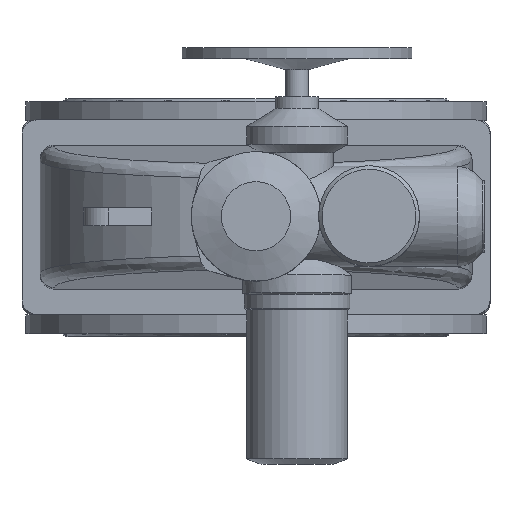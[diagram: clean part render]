
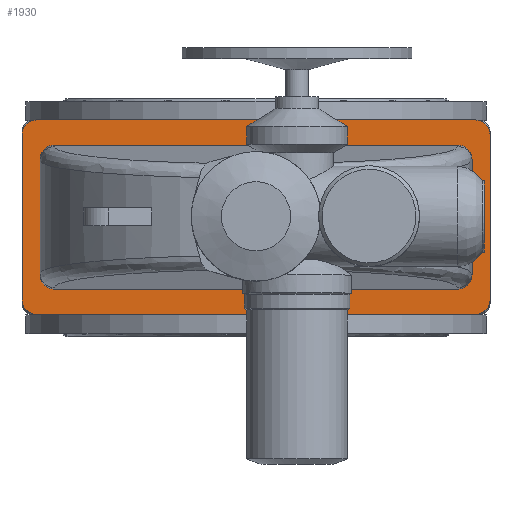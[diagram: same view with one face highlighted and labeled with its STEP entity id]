
A CAD part, top view. The second image highlights one B-rep face of the part: STEP entity #1930.
In plain terms, the highlighted planar face has unit normal (0, 0, 1).
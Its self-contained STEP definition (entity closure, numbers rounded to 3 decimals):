
#1930=ADVANCED_FACE('',(#6315,#6317),#6319,.T.);
#6315=FACE_BOUND('',#6316,.T.);
#6316=EDGE_LOOP('',(#9156,#9157,#9158,#9159,#9160,#9161,#9162,#9163));
#6317=FACE_BOUND('',#6318,.T.);
#6318=EDGE_LOOP('',(#9164,#9165,#9166,#9167,#9168,#9169,#9170,#9171));
#6319=PLANE('',#6320);
#6320=AXIS2_PLACEMENT_3D('',#6321,#6322,#6323);
#6321=CARTESIAN_POINT('',(0.,0.,516.));
#6322=DIRECTION('',(0.,-0.,1.));
#6323=DIRECTION('',(0.,1.,0.));
#9156=ORIENTED_EDGE('',*,*,#10294,.F.);
#9157=ORIENTED_EDGE('',*,*,#10307,.T.);
#9158=ORIENTED_EDGE('',*,*,#10306,.F.);
#9159=ORIENTED_EDGE('',*,*,#10304,.T.);
#9160=ORIENTED_EDGE('',*,*,#10302,.F.);
#9161=ORIENTED_EDGE('',*,*,#10300,.T.);
#9162=ORIENTED_EDGE('',*,*,#10298,.F.);
#9163=ORIENTED_EDGE('',*,*,#10295,.T.);
#9164=ORIENTED_EDGE('',*,*,#10308,.F.);
#9165=ORIENTED_EDGE('',*,*,#10309,.F.);
#9166=ORIENTED_EDGE('',*,*,#10310,.F.);
#9167=ORIENTED_EDGE('',*,*,#10311,.F.);
#9168=ORIENTED_EDGE('',*,*,#10312,.F.);
#9169=ORIENTED_EDGE('',*,*,#10313,.F.);
#9170=ORIENTED_EDGE('',*,*,#10314,.F.);
#9171=ORIENTED_EDGE('',*,*,#10315,.F.);
#10294=EDGE_CURVE('',#11591,#11589,#11593,.F.);
#10295=EDGE_CURVE('',#11594,#11589,#11595,.T.);
#10298=EDGE_CURVE('',#11594,#11597,#11599,.F.);
#10300=EDGE_CURVE('',#11600,#11597,#11602,.T.);
#10302=EDGE_CURVE('',#11600,#11603,#11605,.F.);
#10304=EDGE_CURVE('',#11606,#11603,#11608,.T.);
#10306=EDGE_CURVE('',#11606,#11609,#11611,.F.);
#10307=EDGE_CURVE('',#11591,#11609,#11612,.T.);
#10308=EDGE_CURVE('',#11613,#11614,#11615,.F.);
#10309=EDGE_CURVE('',#11616,#11613,#11617,.T.);
#10310=EDGE_CURVE('',#11618,#11616,#11619,.T.);
#10311=EDGE_CURVE('',#11620,#11618,#11621,.T.);
#10312=EDGE_CURVE('',#11622,#11620,#11623,.F.);
#10313=EDGE_CURVE('',#11624,#11622,#11625,.T.);
#10314=EDGE_CURVE('',#11626,#11624,#11627,.T.);
#10315=EDGE_CURVE('',#11614,#11626,#11628,.T.);
#11589=VERTEX_POINT('',#18125);
#11591=VERTEX_POINT('',#18129);
#11593=CIRCLE('',#18133,20.);
#11594=VERTEX_POINT('',#18137);
#11595=LINE('',#18138,#18139);
#11597=VERTEX_POINT('',#18144);
#11599=CIRCLE('',#18148,20.);
#11600=VERTEX_POINT('',#18152);
#11602=LINE('',#18156,#18157);
#11603=VERTEX_POINT('',#18159);
#11605=CIRCLE('',#18163,20.);
#11606=VERTEX_POINT('',#18167);
#11608=LINE('',#18171,#18172);
#11609=VERTEX_POINT('',#18174);
#11611=CIRCLE('',#18178,20.);
#11612=LINE('',#18182,#18183);
#11613=VERTEX_POINT('',#18185);
#11614=VERTEX_POINT('',#18186);
#11615=(BOUNDED_CURVE()B_SPLINE_CURVE(3,
(#18187,#18188,#18189,#18190),
.UNSPECIFIED.,.F.,.F.)B_SPLINE_CURVE_WITH_KNOTS((4,4),
(0.,1.),
.UNSPECIFIED.)CURVE()GEOMETRIC_REPRESENTATION_ITEM()RATIONAL_B_SPLINE_CURVE((1.,
0.805,0.805,1.))REPRESENTATION_ITEM(''));
#11616=VERTEX_POINT('',#18191);
#11617=LINE('',#18192,#18193);
#11618=VERTEX_POINT('',#18195);
#11619=(BOUNDED_CURVE()B_SPLINE_CURVE(3,
(#18196,#18197,#18198,#18199),
.UNSPECIFIED.,.F.,.F.)B_SPLINE_CURVE_WITH_KNOTS((4,4),
(0.,1.),
.UNSPECIFIED.)CURVE()GEOMETRIC_REPRESENTATION_ITEM()RATIONAL_B_SPLINE_CURVE((1.,
0.805,0.805,1.))REPRESENTATION_ITEM(''));
#11620=VERTEX_POINT('',#18200);
#11621=LINE('',#18201,#18202);
#11622=VERTEX_POINT('',#18204);
#11623=(BOUNDED_CURVE()B_SPLINE_CURVE(3,
(#18205,#18206,#18207,#18208),
.UNSPECIFIED.,.F.,.F.)B_SPLINE_CURVE_WITH_KNOTS((4,4),
(0.,1.),
.UNSPECIFIED.)CURVE()GEOMETRIC_REPRESENTATION_ITEM()RATIONAL_B_SPLINE_CURVE((1.,
0.805,0.805,1.))REPRESENTATION_ITEM(''));
#11624=VERTEX_POINT('',#18209);
#11625=LINE('',#18210,#18211);
#11626=VERTEX_POINT('',#18213);
#11627=(BOUNDED_CURVE()B_SPLINE_CURVE(3,
(#18214,#18215,#18216,#18217),
.UNSPECIFIED.,.F.,.F.)B_SPLINE_CURVE_WITH_KNOTS((4,4),
(0.,1.),
.UNSPECIFIED.)CURVE()GEOMETRIC_REPRESENTATION_ITEM()RATIONAL_B_SPLINE_CURVE((1.,
0.805,0.805,1.))REPRESENTATION_ITEM(''));
#11628=LINE('',#18218,#18219);
#18125=CARTESIAN_POINT('',(-325.,-115.,516.));
#18129=CARTESIAN_POINT('',(-305.,-135.,516.));
#18133=AXIS2_PLACEMENT_3D('',#18134,#18135,#18136);
#18134=CARTESIAN_POINT('',(-305.,-115.,516.));
#18135=DIRECTION('',(0.,-0.,1.));
#18136=DIRECTION('',(-1.,0.,0.));
#18137=CARTESIAN_POINT('',(-325.,115.,516.));
#18138=CARTESIAN_POINT('',(-325.,115.,516.));
#18139=VECTOR('',#18140,1.);
#18140=DIRECTION('',(0.,-1.,0.));
#18144=CARTESIAN_POINT('',(-305.,135.,516.));
#18148=AXIS2_PLACEMENT_3D('',#18149,#18150,#18151);
#18149=CARTESIAN_POINT('',(-305.,115.,516.));
#18150=DIRECTION('',(0.,-0.,1.));
#18151=DIRECTION('',(0.,1.,0.));
#18152=CARTESIAN_POINT('',(305.,135.,516.));
#18156=CARTESIAN_POINT('',(305.,135.,516.));
#18157=VECTOR('',#18158,1.);
#18158=DIRECTION('',(-1.,0.,0.));
#18159=CARTESIAN_POINT('',(325.,115.,516.));
#18163=AXIS2_PLACEMENT_3D('',#18164,#18165,#18166);
#18164=CARTESIAN_POINT('',(305.,115.,516.));
#18165=DIRECTION('',(0.,-0.,1.));
#18166=DIRECTION('',(1.,0.,0.));
#18167=CARTESIAN_POINT('',(325.,-115.,516.));
#18171=CARTESIAN_POINT('',(325.,-115.,516.));
#18172=VECTOR('',#18173,1.);
#18173=DIRECTION('',(0.,1.,0.));
#18174=CARTESIAN_POINT('',(305.,-135.,516.));
#18178=AXIS2_PLACEMENT_3D('',#18179,#18180,#18181);
#18179=CARTESIAN_POINT('',(305.,-115.,516.));
#18180=DIRECTION('',(0.,-0.,1.));
#18181=DIRECTION('',(0.,-1.,0.));
#18182=CARTESIAN_POINT('',(-305.,-135.,516.));
#18183=VECTOR('',#18184,1.);
#18184=DIRECTION('',(1.,0.,0.));
#18185=CARTESIAN_POINT('',(280.,-100.,516.));
#18186=CARTESIAN_POINT('',(300.,-79.924,516.));
#18187=CARTESIAN_POINT('',(300.,-79.924,516.));
#18188=CARTESIAN_POINT('',(300.,-91.684,516.));
#18189=CARTESIAN_POINT('',(291.716,-100.,516.));
#18190=CARTESIAN_POINT('',(280.,-100.,516.));
#18191=CARTESIAN_POINT('',(-280.,-100.,516.));
#18192=CARTESIAN_POINT('',(-280.,-100.,516.));
#18193=VECTOR('',#18194,1.);
#18194=DIRECTION('',(1.,0.,0.));
#18195=CARTESIAN_POINT('',(-300.,-79.924,516.));
#18196=CARTESIAN_POINT('',(-300.,-79.924,516.));
#18197=CARTESIAN_POINT('',(-300.,-91.684,516.));
#18198=CARTESIAN_POINT('',(-291.716,-100.,516.));
#18199=CARTESIAN_POINT('',(-280.,-100.,516.));
#18200=CARTESIAN_POINT('',(-300.,79.924,516.));
#18201=CARTESIAN_POINT('',(-300.,79.924,516.));
#18202=VECTOR('',#18203,1.);
#18203=DIRECTION('',(0.,-1.,0.));
#18204=CARTESIAN_POINT('',(-280.,100.,516.));
#18205=CARTESIAN_POINT('',(-300.,79.924,516.));
#18206=CARTESIAN_POINT('',(-300.,91.684,516.));
#18207=CARTESIAN_POINT('',(-291.716,100.,516.));
#18208=CARTESIAN_POINT('',(-280.,100.,516.));
#18209=CARTESIAN_POINT('',(280.,100.,516.));
#18210=CARTESIAN_POINT('',(280.,100.,516.));
#18211=VECTOR('',#18212,1.);
#18212=DIRECTION('',(-1.,0.,0.));
#18213=CARTESIAN_POINT('',(300.,79.924,516.));
#18214=CARTESIAN_POINT('',(300.,79.924,516.));
#18215=CARTESIAN_POINT('',(300.,91.684,516.));
#18216=CARTESIAN_POINT('',(291.716,100.,516.));
#18217=CARTESIAN_POINT('',(280.,100.,516.));
#18218=CARTESIAN_POINT('',(300.,-79.924,516.));
#18219=VECTOR('',#18220,1.);
#18220=DIRECTION('',(0.,1.,0.));
